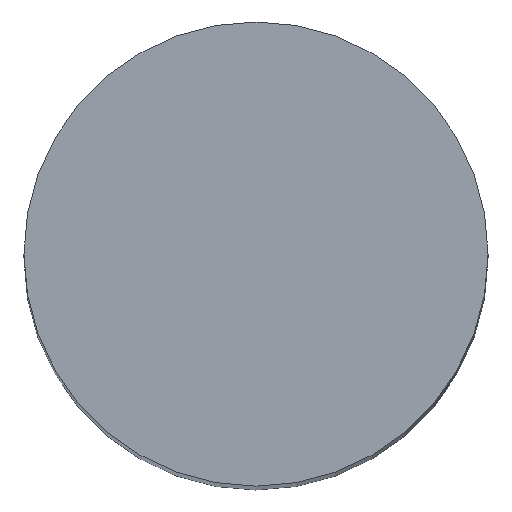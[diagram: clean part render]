
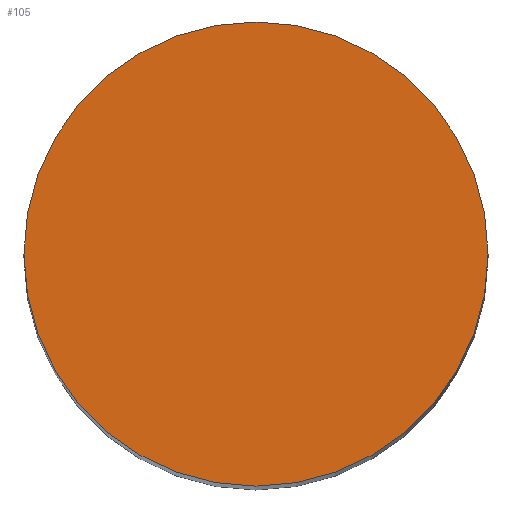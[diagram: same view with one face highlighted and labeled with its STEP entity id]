
A CAD part, top view. The second image highlights one B-rep face of the part: STEP entity #105.
In plain terms, the highlighted planar face has unit normal (0, 0, 1).
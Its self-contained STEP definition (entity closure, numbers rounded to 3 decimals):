
#21 = EDGE_CURVE('',#22,#22,#24,.T.);
#22 = VERTEX_POINT('',#23);
#23 = CARTESIAN_POINT('',(-3.61,-9.428,-4.1));
#24 = SURFACE_CURVE('',#25,(#30,#42),.PCURVE_S1.);
#25 = CIRCLE('',#26,0.2);
#26 = AXIS2_PLACEMENT_3D('',#27,#28,#29);
#27 = CARTESIAN_POINT('',(-3.81,-9.428,-4.1));
#28 = DIRECTION('',(0.,0.,1.));
#29 = DIRECTION('',(1.,0.,-0.));
#30 = PCURVE('',#31,#36);
#31 = CYLINDRICAL_SURFACE('',#32,0.2);
#32 = AXIS2_PLACEMENT_3D('',#33,#34,#35);
#33 = CARTESIAN_POINT('',(-3.81,-9.428,-6.));
#34 = DIRECTION('',(0.,0.,1.));
#35 = DIRECTION('',(1.,0.,-0.));
#36 = DEFINITIONAL_REPRESENTATION('',(#37),#41);
#37 = LINE('',#38,#39);
#38 = CARTESIAN_POINT('',(0.,1.9));
#39 = VECTOR('',#40,1.);
#40 = DIRECTION('',(1.,0.));
#41 = ( GEOMETRIC_REPRESENTATION_CONTEXT(2) 
PARAMETRIC_REPRESENTATION_CONTEXT() REPRESENTATION_CONTEXT('2D SPACE',''
  ) );
#42 = PCURVE('',#43,#48);
#43 = PLANE('',#44);
#44 = AXIS2_PLACEMENT_3D('',#45,#46,#47);
#45 = CARTESIAN_POINT('',(-3.81,-9.428,-4.1));
#46 = DIRECTION('',(0.,0.,1.));
#47 = DIRECTION('',(1.,0.,-0.));
#48 = DEFINITIONAL_REPRESENTATION('',(#49),#53);
#49 = CIRCLE('',#50,0.2);
#50 = AXIS2_PLACEMENT_2D('',#51,#52);
#51 = CARTESIAN_POINT('',(0.,0.));
#52 = DIRECTION('',(1.,0.));
#53 = ( GEOMETRIC_REPRESENTATION_CONTEXT(2) 
PARAMETRIC_REPRESENTATION_CONTEXT() REPRESENTATION_CONTEXT('2D SPACE',''
  ) );
#105 = ADVANCED_FACE('',(#106),#43,.T.);
#106 = FACE_BOUND('',#107,.T.);
#107 = EDGE_LOOP('',(#108));
#108 = ORIENTED_EDGE('',*,*,#21,.T.);
